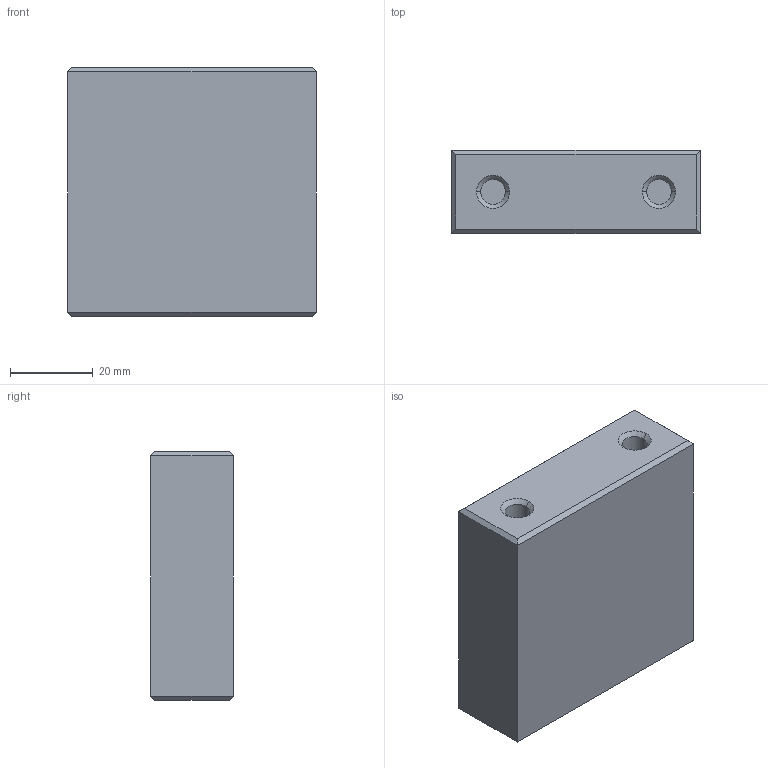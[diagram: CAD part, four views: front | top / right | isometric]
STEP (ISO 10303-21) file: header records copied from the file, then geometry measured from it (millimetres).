
FILE_DESCRIPTION(('CATIA V5 STEP Exchange'),'2;1');
FILE_NAME('C:\Users\Administrator\Desktop\汕德卡换档扶手\上盖板安装治具\下支承块-04\ZCK-8.stp','2021-12-03T02:45:47+00:00',('none'),('none'),'CATIA Version 5 Release 20 GA (IN-10)','CATIA V5 STEP AP203','none');
FILE_SCHEMA(('CONFIG_CONTROL_DESIGN'));
Length unit declared in the file: millimetre
Products named in the file (1): ZCK-8
Bounding box: 60 x 20 x 60 mm (x, y, z)
Volume: 70104.3 mm3; surface area: 12901.2 mm2
Topology: 1 solids, 1 shells, 34 faces, 68 edges, 40 vertices
Faces by surface type: plane 18, cylinder 8, cone 8
Entity records: 838 total; most frequent: CARTESIAN_POINT 143, ORIENTED_EDGE 136, DIRECTION 112, EDGE_CURVE 68, AXIS2_PLACEMENT_3D 51, VERTEX_POINT 40, EDGE_LOOP 38, VECTOR 36
